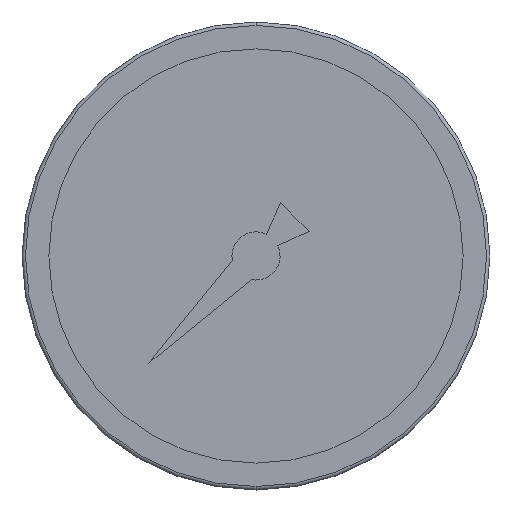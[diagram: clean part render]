
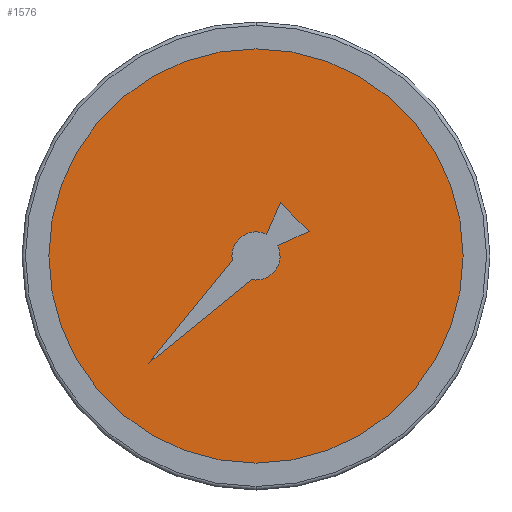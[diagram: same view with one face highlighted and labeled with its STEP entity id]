
A CAD part, top view. The second image highlights one B-rep face of the part: STEP entity #1576.
In plain terms, the highlighted planar face has unit normal (0, 0, 1).
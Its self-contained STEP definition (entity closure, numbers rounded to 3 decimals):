
#551=CARTESIAN_POINT('',(0.,0.,43.5));
#552=DIRECTION('',(0.,0.,1.));
#553=DIRECTION('',(0.,1.,0.));
#554=AXIS2_PLACEMENT_3D('',#551,#552,#553);
#560=CARTESIAN_POINT('',(0.,0.,43.5));
#561=DIRECTION('',(0.,0.,-1.));
#562=DIRECTION('',(0.,1.,0.));
#563=AXIS2_PLACEMENT_3D('',#560,#561,#562);
#569=DIRECTION('',(-0.707,0.707,0.));
#570=VECTOR('',#569,5.824);
#571=CARTESIAN_POINT('',(7.716,3.598,43.5));
#572=LINE('',#571,#570);
#573=DIRECTION('',(-0.423,-0.906,0.));
#574=VECTOR('',#573,5.013);
#575=CARTESIAN_POINT('',(3.598,7.716,43.5));
#576=LINE('',#575,#574);
#577=CARTESIAN_POINT('',(0.,0.,43.5));
#578=DIRECTION('',(0.,0.,1.));
#579=DIRECTION('',(0.423,0.906,0.));
#580=AXIS2_PLACEMENT_3D('',#577,#578,#579);
#582=DIRECTION('',(-0.629,-0.777,0.));
#583=VECTOR('',#582,19.241);
#584=CARTESIAN_POINT('',(-3.448,-0.603,43.5));
#585=LINE('',#584,#583);
#586=DIRECTION('',(0.777,0.629,0.));
#587=VECTOR('',#586,19.241);
#588=CARTESIAN_POINT('',(-15.556,-15.556,43.5));
#589=LINE('',#588,#587);
#590=CARTESIAN_POINT('',(0.,0.,43.5));
#591=DIRECTION('',(0.,0.,1.));
#592=DIRECTION('',(-0.172,-0.985,0.));
#593=AXIS2_PLACEMENT_3D('',#590,#591,#592);
#595=DIRECTION('',(0.906,0.423,0.));
#596=VECTOR('',#595,5.013);
#597=CARTESIAN_POINT('',(3.172,1.479,43.5));
#598=LINE('',#597,#596);
#867=CARTESIAN_POINT('',(0.,30.1,43.5));
#868=CARTESIAN_POINT('',(0.,-30.1,43.5));
#869=VERTEX_POINT('',#867);
#870=VERTEX_POINT('',#868);
#889=CARTESIAN_POINT('',(7.716,3.598,43.5));
#890=CARTESIAN_POINT('',(3.598,7.716,43.5));
#891=VERTEX_POINT('',#889);
#892=VERTEX_POINT('',#890);
#893=CARTESIAN_POINT('',(1.479,3.172,43.5));
#894=VERTEX_POINT('',#893);
#895=CARTESIAN_POINT('',(-3.448,-0.603,43.5));
#896=VERTEX_POINT('',#895);
#897=CARTESIAN_POINT('',(-15.556,-15.556,43.5));
#898=VERTEX_POINT('',#897);
#899=CARTESIAN_POINT('',(-0.603,-3.448,43.5));
#900=VERTEX_POINT('',#899);
#901=CARTESIAN_POINT('',(3.172,1.479,43.5));
#902=VERTEX_POINT('',#901);
#1551=CARTESIAN_POINT('',(0.,0.,43.5));
#1552=DIRECTION('',(0.,0.,1.));
#1553=DIRECTION('',(0.,1.,0.));
#1554=AXIS2_PLACEMENT_3D('',#1551,#1552,#1553);
#1555=PLANE('',#1554);
#1556=ORIENTED_EDGE('',*,*,#1545,.T.);
#1557=ORIENTED_EDGE('',*,*,#1531,.F.);
#1558=EDGE_LOOP('',(#1556,#1557));
#1559=FACE_OUTER_BOUND('',#1558,.F.);
#1561=ORIENTED_EDGE('',*,*,#1560,.T.);
#1563=ORIENTED_EDGE('',*,*,#1562,.T.);
#1565=ORIENTED_EDGE('',*,*,#1564,.T.);
#1567=ORIENTED_EDGE('',*,*,#1566,.T.);
#1569=ORIENTED_EDGE('',*,*,#1568,.T.);
#1571=ORIENTED_EDGE('',*,*,#1570,.T.);
#1573=ORIENTED_EDGE('',*,*,#1572,.T.);
#1574=EDGE_LOOP('',(#1561,#1563,#1565,#1567,#1569,#1571,#1573));
#1575=FACE_BOUND('',#1574,.F.);
#555=CIRCLE('',#554,30.1);
#564=CIRCLE('',#563,30.1);
#581=CIRCLE('',#580,3.5);
#594=CIRCLE('',#593,3.5);
#1531=EDGE_CURVE('',#869,#870,#555,.T.);
#1545=EDGE_CURVE('',#869,#870,#564,.T.);
#1560=EDGE_CURVE('',#891,#892,#572,.T.);
#1562=EDGE_CURVE('',#892,#894,#576,.T.);
#1564=EDGE_CURVE('',#894,#896,#581,.T.);
#1566=EDGE_CURVE('',#896,#898,#585,.T.);
#1568=EDGE_CURVE('',#898,#900,#589,.T.);
#1570=EDGE_CURVE('',#900,#902,#594,.T.);
#1572=EDGE_CURVE('',#902,#891,#598,.T.);
#1576=ADVANCED_FACE('',(#1559,#1575),#1555,.T.);
